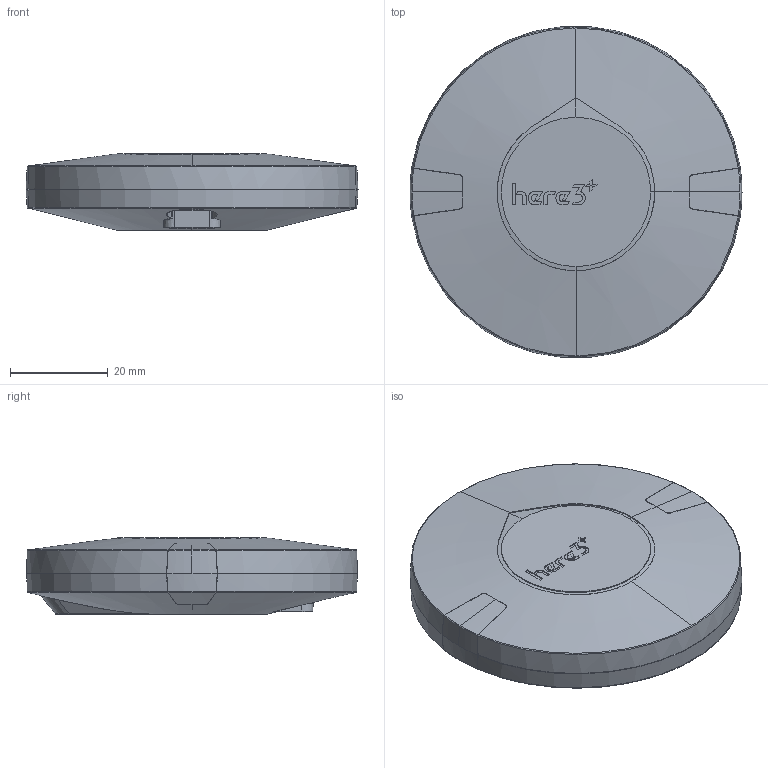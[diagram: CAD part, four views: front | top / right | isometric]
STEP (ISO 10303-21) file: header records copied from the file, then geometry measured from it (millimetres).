
FILE_DESCRIPTION (( 'STEP AP214' ), '1' );
FILE_NAME ('Here3+.STEP', '2023-03-27T09:03:16', ( '' ), ( '' ), 'SwSTEP 2.0', 'SolidWorks 2018', '' );
FILE_SCHEMA (( 'AUTOMOTIVE_DESIGN' ));
Length unit declared in the file: millimetre
Products named in the file (4): gps_here3_led_lens20200307.stp; gps_here3plus_btm_case20220412.stp; Here3+Top.step; Here3+
Assembly tree (4 placements, depth 2):
  Here3+
    gps_here3plus_btm_case20220412.stp
    gps_here3_led_lens20200307.stp  x2
    Here3+Top.step
Bounding box: 67.8 x 67.56 x 15.6 mm (x, y, z)
Volume: 17346.9 mm3; surface area: 22970.4 mm2
Topology: 5 solids, 5 shells, 1227 faces, 3383 edges, 2157 vertices
Faces by surface type: plane 525, cone 291, bspline 202, cylinder 142, torus 61, sphere 6
Entity records: 47056 total; most frequent: CARTESIAN_POINT 20892, ORIENTED_EDGE 6094, DIRECTION 4288, EDGE_CURVE 3047, VERTEX_POINT 1947, AXIS2_PLACEMENT_3D 1656, B_SPLINE_CURVE_WITH_KNOTS 1343, EDGE_LOOP 1146
